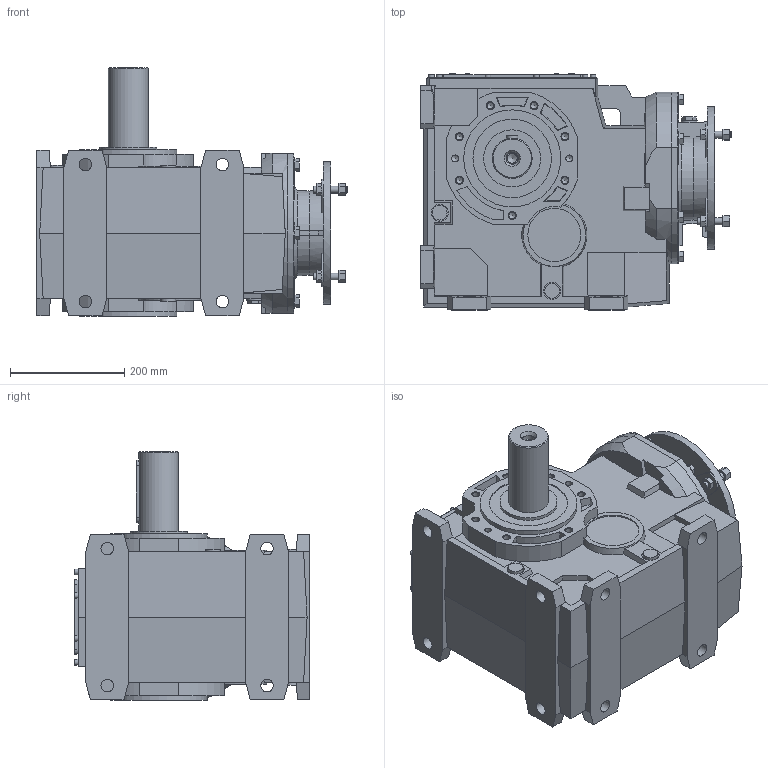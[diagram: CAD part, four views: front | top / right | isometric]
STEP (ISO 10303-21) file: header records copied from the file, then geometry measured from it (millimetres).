
FILE_DESCRIPTION(/* description */ ('STEP AP203'),/* implementation_level */ '2;1');
FILE_NAME(/* name */ 'B143US100-112_B570x1400000000NO----_---------------',/* time_stamp */ '2025-12-18T04:59:59+01:00',/* author */ ('License CC BY-ND 4.0'),/* organization */ ('CADENAS'),/* preprocessor_version */ 'ST-DEVELOPER v20',/* originating_system */ 'PARTsolutions',/* authorisation */ ' ');
FILE_SCHEMA (('CONFIG_CONTROL_DESIGN'));
Length unit declared in the file: millimetre
Products named in the file (5): B143US100-112 B570x1400000000NO----(---------------); 143-U-100; 143-70x140-S; 143-B-250x28(100-112 B51); B143-250x28
Assembly tree (4 placements, depth 2):
  B143US100-112 B570x1400000000NO----(---------------)
    143-U-100
    143-70x140-S
    143-B-250x28(100-112 B51)
    B143-250x28
Bounding box: 543.5 x 413 x 436 mm (x, y, z)
Volume: 41284205 mm3; surface area: 1471253.3 mm2
Topology: 4 solids, 4 shells, 735 faces, 1878 edges, 1233 vertices
Faces by surface type: plane 516, cylinder 150, cone 68, torus 1
Full cylindrical faces by diameter (mm): 9.1 x3, 10 x12, 11.835 x14, 12 x12, 17.294 x1, 21 x1, 22 x8, 26 x3, 28 x2, 30 x5, 36 x1, 45 x1, 70 x1, 93 x2, 100 x2, 137.501 x2, 170 x2, 180 x1, 250 x3
Entity records: 21468 total; most frequent: CARTESIAN_POINT 3965, DIRECTION 3529, ORIENTED_EDGE 3440, EDGE_CURVE 1720, VERTEX_POINT 1210, LINE 1209, VECTOR 1209, AXIS2_PLACEMENT_3D 1160
